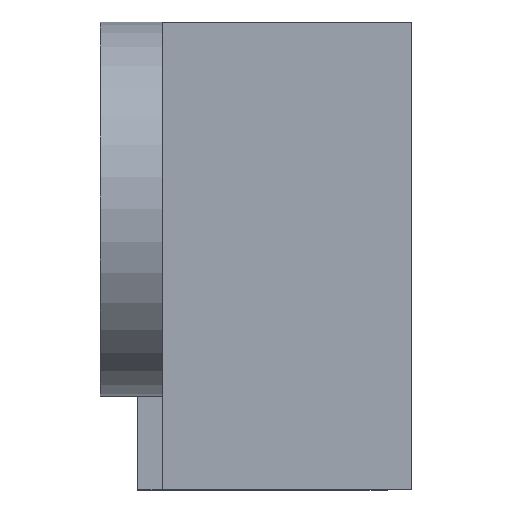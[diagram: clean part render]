
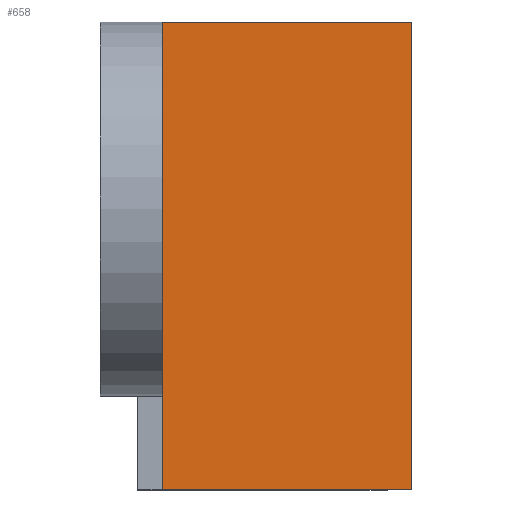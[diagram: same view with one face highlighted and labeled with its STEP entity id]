
A CAD part, left-side view. The second image highlights one B-rep face of the part: STEP entity #658.
In plain terms, the highlighted planar face has unit normal (-1, 0, 0).
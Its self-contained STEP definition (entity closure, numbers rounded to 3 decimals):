
#38 = ORIENTED_EDGE ( 'NONE', *, *, #903, .T. ) ;
#549 = EDGE_CURVE ( 'NONE', #662, #550, #2161, .T. ) ;
#550 = VERTEX_POINT ( 'NONE', #2157 ) ;
#658 = ADVANCED_FACE ( 'NONE', ( #2084 ), #2083, .F. ) ;
#659 = EDGE_LOOP ( 'NONE', ( #660, #664, #38, #828 ) ) ;
#660 = ORIENTED_EDGE ( 'NONE', *, *, #661, .F. ) ;
#661 = EDGE_CURVE ( 'NONE', #662, #663, #2078, .T. ) ;
#662 = VERTEX_POINT ( 'NONE', #2074 ) ;
#663 = VERTEX_POINT ( 'NONE', #2073 ) ;
#664 = ORIENTED_EDGE ( 'NONE', *, *, #549, .T. ) ;
#827 = VERTEX_POINT ( 'NONE', #2373 ) ;
#828 = ORIENTED_EDGE ( 'NONE', *, *, #829, .F. ) ;
#829 = EDGE_CURVE ( 'NONE', #663, #827, #2372, .T. ) ;
#903 = EDGE_CURVE ( 'NONE', #550, #827, #2749, .T. ) ;
#2073 = CARTESIAN_POINT ( 'NONE',  ( -15., 20., 15. ) ) ;
#2074 = CARTESIAN_POINT ( 'NONE',  ( -15., 20., -22.5 ) ) ;
#2075 = DIRECTION ( 'NONE',  ( 0., 0., 1. ) ) ;
#2076 = VECTOR ( 'NONE', #2075, 1000. ) ;
#2077 = CARTESIAN_POINT ( 'NONE',  ( -15., 20., -22.5 ) ) ;
#2078 = LINE ( 'NONE', #2077, #2076 ) ;
#2079 = DIRECTION ( 'NONE',  ( 0., 0., -1. ) ) ;
#2080 = DIRECTION ( 'NONE',  ( 1., 0., 0. ) ) ;
#2081 = CARTESIAN_POINT ( 'NONE',  ( -15., 22., -22.5 ) ) ;
#2082 = AXIS2_PLACEMENT_3D ( 'NONE', #2081, #2080, #2079 ) ;
#2083 = PLANE ( 'NONE',  #2082 ) ;
#2084 = FACE_OUTER_BOUND ( 'NONE', #659, .T. ) ;
#2157 = CARTESIAN_POINT ( 'NONE',  ( -15., 0., -22.5 ) ) ;
#2158 = DIRECTION ( 'NONE',  ( 0., -1., 0. ) ) ;
#2159 = VECTOR ( 'NONE', #2158, 1000. ) ;
#2160 = CARTESIAN_POINT ( 'NONE',  ( -15., 22., -22.5 ) ) ;
#2161 = LINE ( 'NONE', #2160, #2159 ) ;
#2369 = DIRECTION ( 'NONE',  ( 0., -1., 0. ) ) ;
#2370 = VECTOR ( 'NONE', #2369, 1000. ) ;
#2371 = CARTESIAN_POINT ( 'NONE',  ( -15., 22., 15. ) ) ;
#2372 = LINE ( 'NONE', #2371, #2370 ) ;
#2373 = CARTESIAN_POINT ( 'NONE',  ( -15., 0., 15. ) ) ;
#2746 = DIRECTION ( 'NONE',  ( 0., 0., 1. ) ) ;
#2747 = VECTOR ( 'NONE', #2746, 1000. ) ;
#2748 = CARTESIAN_POINT ( 'NONE',  ( -15., 0., -22.5 ) ) ;
#2749 = LINE ( 'NONE', #2748, #2747 ) ;
